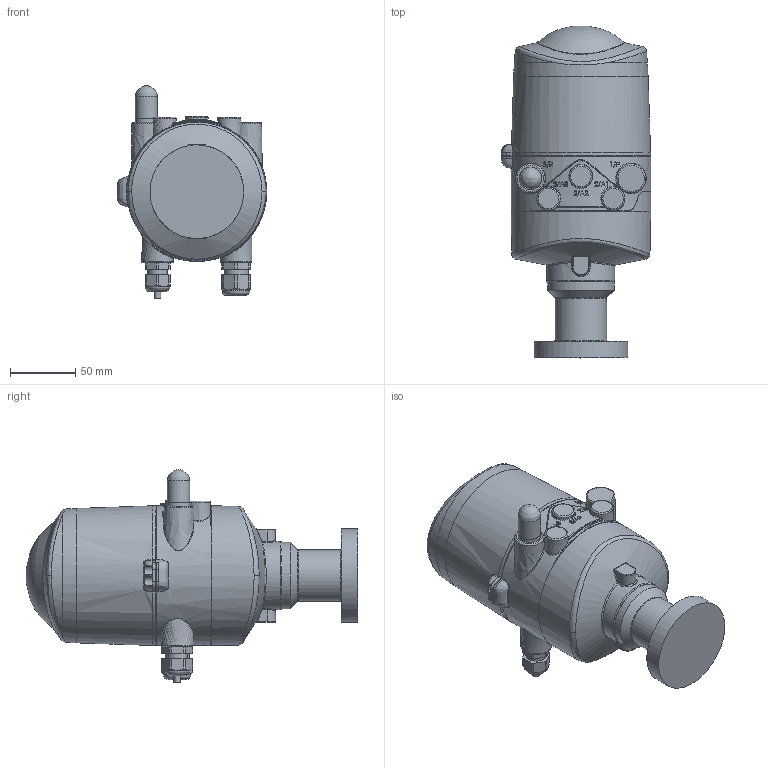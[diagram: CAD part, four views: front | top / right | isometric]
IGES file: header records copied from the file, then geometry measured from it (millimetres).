
Global section: file name: 8681- maint. free; native system: Autodesk Inventor 2020; preprocessor: unknown; author: H7M44K; date: 20210426.081412; units: inch
Bounding box: 114.12 x 253.5 x 162.2 mm (x, y, z)
Volume: 1626360.6 mm3; surface area: 94315.8 mm2
Topology: 1 solids, 1 shells, 493 faces, 1273 edges, 808 vertices
Faces by surface type: bspline 493
